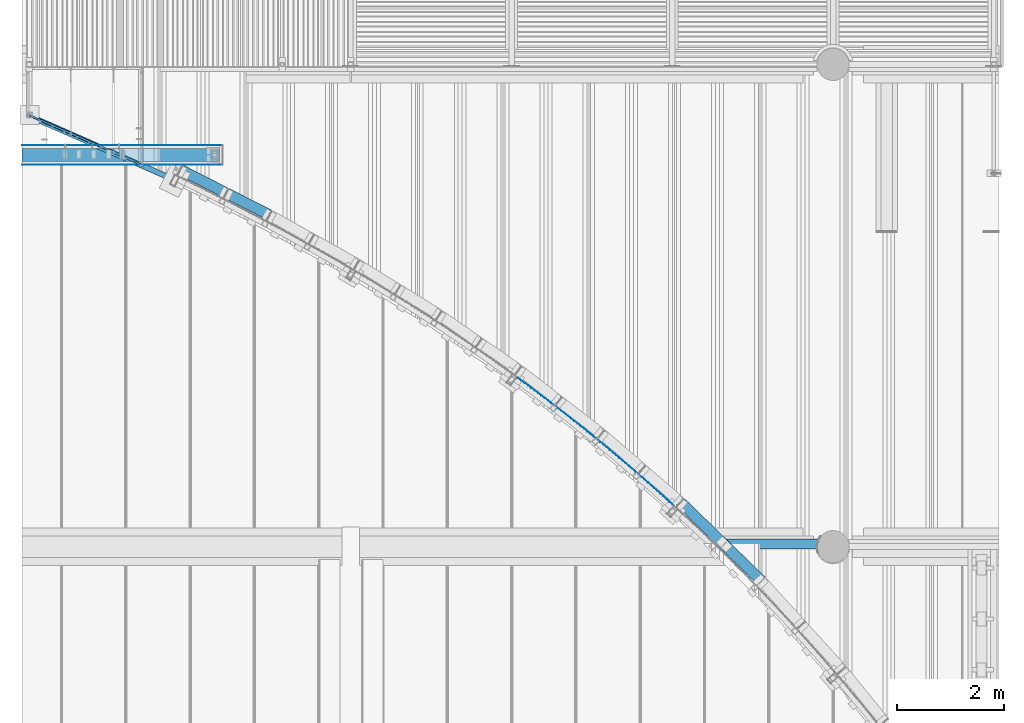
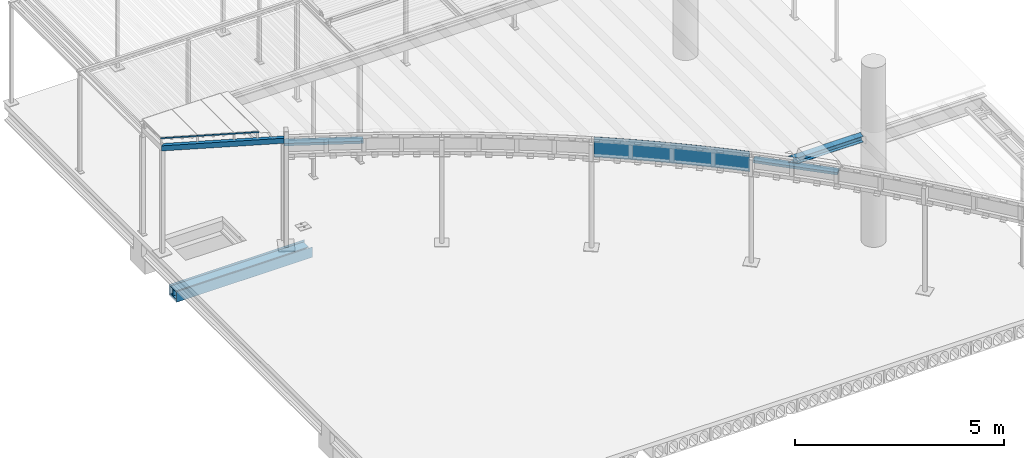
# One storey, part 15 of 98: 10 beams.
"""IFC2X3 building model written with IfcOpenShell, lengths in millimetres."""

import ifcopenshell
import ifcopenshell.guid

model = None  # the IFC model being written
_history = None  # IfcOwnerHistory: only IFC2X3 demands one
_inside = {}  # id of a spatial element -> (the spatial element, [elements in it])
_under = {}  # id of a project, library or spatial element -> (it, [spatial elements below it])
_declared = {}  # id of a project -> (the project, [libraries it declares])
_typed = {}  # id of a type object -> (the type object, [elements of that type])
_made_of = {}  # id of a material, layer set ... -> (it, [elements and type objects made of it])


def new_model(schema):
    """Start an empty IFC model of exactly this schema.

    Asked for "IFC4X3", IfcOpenShell would pick the latest addendum, in which some entities
    have other attributes; the version numbers below select the first issue.
    IFC2X3 requires an IfcOwnerHistory on every rooted entity: one is made here for all.
    """
    global model, _history
    if schema == "IFC4X3":
        model = ifcopenshell.file(schema_version=(4, 3, 0, 0))
    else:
        model = ifcopenshell.file(schema=schema)
    _inside.clear()
    _under.clear()
    _declared.clear()
    _typed.clear()
    _made_of.clear()
    _history = None
    if model.schema == "IFC2X3":
        org = make("IfcOrganization", Name="unknown")
        user = make(
            "IfcPersonAndOrganization",
            ThePerson=make("IfcPerson", FamilyName="unknown"),
            TheOrganization=org,
        )
        app = make(
            "IfcApplication",
            ApplicationDeveloper=org,
            Version="unknown",
            ApplicationFullName="unknown",
            ApplicationIdentifier="unknown",
        )
        _history = make(
            "IfcOwnerHistory",
            OwningUser=user,
            OwningApplication=app,
            ChangeAction="ADDED",
            CreationDate=0,
        )
    return model


def make(cls, **values):
    """One entity of the class cls with the attributes given. An attribute that is None is left unset."""
    return model.create_entity(
        cls, **{name: value for name, value in values.items() if value is not None}
    )


def entity(cls, *values):
    """Any entity or typed value of the class cls, its attributes in the order of the schema. None: left unset."""
    e = model.create_entity(cls)
    for i, value in enumerate(values):
        if value is not None:
            e[i] = value
    return e


def rooted(cls, **values):
    """An entity with a GlobalId (a new one), such as an element, a storey or a relation."""
    return make(cls, GlobalId=ifcopenshell.guid.new(), OwnerHistory=_history, **values)


def si_unit(unit_type, name, prefix=None):
    """IfcSIUnit, for example si_unit("LENGTHUNIT", "METRE", prefix="MILLI")."""
    return make("IfcSIUnit", UnitType=unit_type, Prefix=prefix, Name=name)


def converted_unit(unit_type, name, factor, base, dimensions=None, offset=None):
    """IfcConversionBasedUnit, such as the inch: factor (a typed value) times the base unit."""
    return make(
        "IfcConversionBasedUnit"
        if offset is None
        else "IfcConversionBasedUnitWithOffset",
        ConversionOffset=offset,
        Dimensions=None
        if dimensions is None
        else entity("IfcDimensionalExponents", *dimensions),
        UnitType=unit_type,
        Name=name,
        ConversionFactor=make(
            "IfcMeasureWithUnit", ValueComponent=factor, UnitComponent=base
        ),
    )


def derived_unit(unit_type, elements):
    """IfcDerivedUnit: a product of units, each with its exponent."""
    return make(
        "IfcDerivedUnit",
        Elements=[
            make("IfcDerivedUnitElement", Unit=unit, Exponent=power)
            for unit, power in elements
        ],
        UnitType=unit_type,
    )


def assignment(units):
    """IfcUnitAssignment: the units of a project."""
    return None if units is None else make("IfcUnitAssignment", Units=units)


def point(xyz):
    """IfcCartesianPoint."""
    return None if xyz is None else make("IfcCartesianPoint", Coordinates=xyz)


def direction(xyz):
    """IfcDirection."""
    return None if xyz is None else make("IfcDirection", DirectionRatios=xyz)


def frame(location, z_axis=None, x_axis=None):
    """IfcAxis2Placement3D, a coordinate frame: its origin and axes. An axis left out is left unset."""
    return make(
        "IfcAxis2Placement3D",
        Location=point(location),
        Axis=direction(z_axis),
        RefDirection=direction(x_axis),
    )


def origin_with_axes():
    """The frame at (0, 0, 0) with the z axis (0, 0, 1) and the x axis (1, 0, 0) written out."""
    return frame((0.0, 0.0, 0.0), z_axis=(0.0, 0.0, 1.0), x_axis=(1.0, 0.0, 0.0))


def place(relative_to, where):
    """IfcLocalPlacement: puts the frame where relative to a parent placement (None: the world)."""
    return make(
        "IfcLocalPlacement", PlacementRelTo=relative_to, RelativePlacement=where
    )


def context(
    kind, dimensions, precision=None, world=None, true_north=None, identifier=None
):
    """IfcGeometricRepresentationContext, for example the 3D "Model" context."""
    return make(
        "IfcGeometricRepresentationContext",
        ContextIdentifier=identifier,
        ContextType=kind,
        CoordinateSpaceDimension=dimensions,
        Precision=precision,
        WorldCoordinateSystem=world,
        TrueNorth=true_north,
    )


def subcontext(parent, identifier, kind, view, scale=None):
    """IfcGeometricRepresentationSubContext, for example "Body" below "Model"."""
    return make(
        "IfcGeometricRepresentationSubContext",
        ContextIdentifier=identifier,
        ContextType=kind,
        ParentContext=parent,
        TargetScale=scale,
        TargetView=view,
    )


def project(units=None, contexts=None):
    """IfcProject with its units and contexts."""
    return rooted(
        "IfcProject",
        Name="project",
        RepresentationContexts=contexts,
        UnitsInContext=assignment(units),
    )


def spatial(cls, under=None, at=None, **own):
    """A site, building, storey or space (cls), placed at a placement, below another one or the project."""
    s = rooted(cls, ObjectPlacement=at, **own)
    if under is not None:
        _under.setdefault(under.id(), (under, []))[1].append(s)
    return s


def faces_of(points, faces, orient=None, outer=None):
    """IfcFace entities. A face is a list of loops; a loop is a list of indices into points, from 0.

    orient and outer hold one flag for each loop. By default every Orientation is true, the
    first loop of a face is its IfcFaceOuterBound and the others are IfcFaceBound.
    """
    made = []
    for i, loops in enumerate(faces):
        bounds = []
        for j, loop in enumerate(loops):
            is_outer = j == 0 if outer is None else outer[i][j]
            bounds.append(
                make(
                    "IfcFaceOuterBound" if is_outer else "IfcFaceBound",
                    Bound=make("IfcPolyLoop", Polygon=[points[k] for k in loop]),
                    Orientation=True if orient is None else orient[i][j],
                )
            )
        made.append(make("IfcFace", Bounds=bounds))
    return made


def faceted_brep(points, faces, orient=None, outer=None, voids=None):
    """IfcFacetedBrep: a solid bounded by flat faces; with voids (closed shells), ...WithVoids."""
    shared = [point(p) for p in points]
    hull = make("IfcClosedShell", CfsFaces=faces_of(shared, faces, orient, outer))
    if voids is None:
        return make("IfcFacetedBrep", Outer=hull)
    return make(
        "IfcFacetedBrepWithVoids",
        Outer=hull,
        Voids=[
            make(cls, CfsFaces=faces_of(shared, fs, o, b)) for cls, fs, o, b in voids
        ],
    )


def shape(context_of_items, identifier, shape_type, items):
    """IfcShapeRepresentation: the items that make up one representation, for example the "Body"."""
    return make(
        "IfcShapeRepresentation",
        ContextOfItems=context_of_items,
        RepresentationIdentifier=identifier,
        RepresentationType=shape_type,
        Items=items,
    )


def material(Name=None, Category=None):
    """IfcMaterial."""
    return make("IfcMaterial", Name=Name, Category=Category)


def made_of(thing, what):
    """Note that an element or type object is made of a material, layer set ...; save() writes the relation."""
    if what is not None:
        _made_of.setdefault(what.id(), (what, []))[1].append(thing)
    return thing


def type_object(cls, material=None, **own):
    """A type object (cls), such as IfcWallType, which elements share."""
    return made_of(rooted(cls, **own), material)


def element(
    cls,
    number,
    at=None,
    inside=None,
    cuts=None,
    type_object=None,
    material=None,
    context=None,
    identifier="Body",
    shape_type=None,
    held_by="IfcProductDefinitionShape",
    body=None,
    shapes=None,
    **own,
):
    """One element of the class cls, such as IfcWall. Its Tag is "e" and its number.

    at: its placement. inside: the storey or other place that contains it. cuts: it is an
    opening in that element (IfcRelVoidsElement). A single representation is given by context,
    identifier, shape_type and body (its items); several are given by shapes. held_by: the class
    of the entity that holds the representations. save() writes the other relations.
    """
    e = rooted(cls, Tag="e%d" % number, ObjectPlacement=at, **own)
    if body is not None:
        shapes = [shape(context, identifier, shape_type, body)]
    if shapes is not None:
        e.Representation = make(held_by, Representations=shapes)
    if inside is not None:
        _inside.setdefault(inside.id(), (inside, []))[1].append(e)
    if cuts is not None:
        rooted(
            "IfcRelVoidsElement", RelatingBuildingElement=cuts, RelatedOpeningElement=e
        )
    if type_object is not None:
        _typed.setdefault(type_object.id(), (type_object, []))[1].append(e)
    return made_of(e, material)


def aggregate(whole, parts):
    """IfcRelAggregates: a whole, such as a stair, and the parts it consists of."""
    return rooted("IfcRelAggregates", RelatingObject=whole, RelatedObjects=parts)


def save(model, path):
    """Write the relations noted so far, then the file.

    IfcRelAggregates (storeys below a building ...), IfcRelContainedInSpatialStructure (elements
    in a storey), IfcRelDefinesByType, IfcRelAssociatesMaterial and IfcRelDeclares: one each for
    every whole, place, type object, material and project.
    """
    for whole, parts in _under.values():
        aggregate(whole, parts)
    for where, things in _inside.values():
        rooted(
            "IfcRelContainedInSpatialStructure",
            RelatedElements=things,
            RelatingStructure=where,
        )
    for kind, things in _typed.values():
        rooted("IfcRelDefinesByType", RelatedObjects=things, RelatingType=kind)
    for what, things in _made_of.values():
        rooted("IfcRelAssociatesMaterial", RelatedObjects=things, RelatingMaterial=what)
    for by, libraries in _declared.values():
        rooted("IfcRelDeclares", RelatingContext=by, RelatedDefinitions=libraries)
    model.write(path)


model = new_model("IFC2X3")

# Units and contexts
model_context = context("Model", 3, precision=0.01, world=frame((0.0, 4.29681676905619e-09, 0.0)), true_north=direction((4.01073788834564e-13, 1.0)))
plan_context = context("Plan", 3, precision=0.01, world=frame((0.0, 4.29681676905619e-09, 0.0)), true_north=direction((4.01073788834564e-13, 1.0)))
body_context = subcontext(model_context, "Body", "Model", "MODEL_VIEW")
ifc_project = project(units=[converted_unit("PLANEANGLEUNIT", "DEGREE", entity("IfcPositiveLengthMeasure", 0.0174532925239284), si_unit("PLANEANGLEUNIT", "RADIAN"), dimensions=[0, 0, 0, 0, 0, 0, 0]), si_unit("AREAUNIT", "SQUARE_METRE"), si_unit("LENGTHUNIT", "METRE", prefix="MILLI"), si_unit("MASSUNIT", "GRAM", prefix="KILO"), si_unit("POWERUNIT", "WATT"), si_unit("PRESSUREUNIT", "PASCAL"), si_unit("FORCEUNIT", "NEWTON", prefix="KILO"), si_unit("ELECTRICCURRENTUNIT", "AMPERE"), si_unit("THERMODYNAMICTEMPERATUREUNIT", "DEGREE_CELSIUS"), si_unit("TIMEUNIT", "SECOND"), si_unit("VOLUMEUNIT", "CUBIC_METRE"), derived_unit("LINEARVELOCITYUNIT", [(si_unit("LENGTHUNIT", "METRE"), 1), (si_unit("TIMEUNIT", "SECOND"), -1)]), derived_unit("VOLUMETRICFLOWRATEUNIT", [(si_unit("VOLUMEUNIT", "CUBIC_METRE"), 1), (si_unit("TIMEUNIT", "SECOND"), -1)]), derived_unit("THERMALTRANSMITTANCEUNIT", [(si_unit("POWERUNIT", "WATT"), 1), (si_unit("THERMODYNAMICTEMPERATUREUNIT", "KELVIN"), -1), (si_unit("AREAUNIT", "SQUARE_METRE"), -1)])], contexts=[model_context, plan_context])

# Site, building, storey
site_placement = place(None, frame((0.0, -4.29681676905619e-09, 0.0), z_axis=(0.0, 0.0, 1.0), x_axis=(1.0, 0.0, 0.0)))
site = spatial("IfcSite", under=ifc_project, at=site_placement, Name="Gardermoen", CompositionType="ELEMENT")
building_placement = place(site_placement, frame((0.0, 4.29681676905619e-09, 0.0), z_axis=(0.0, 0.0, 1.0), x_axis=(1.0, 0.0, 0.0)))
building = spatial("IfcBuilding", under=site, at=building_placement, Name="TS", CompositionType="ELEMENT")
storey_placement = place(building_placement, origin_with_axes())
storey = spatial("IfcBuildingStorey", under=building, at=storey_placement, Name="D", CompositionType="ELEMENT", Elevation=0.0)

# Beams
beam_type_1 = type_object("IfcBeamType", Name="PL362*1", PredefinedType="NOTDEFINED")
beam_1_placement = place(storey_placement, frame((512788.999766, 412809.999991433, 203094.5), z_axis=(0.0, 1.0, 0.0), x_axis=(1.0, 0.0, 0.0)))
element("IfcBeam", 1, at=beam_1_placement, inside=storey, type_object=beam_type_1, Name="STÅLBJELKE", ObjectType="PL362*1", context=body_context, shape_type="Brep", body=[
    faceted_brep([(1073.50023400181, 0.5, 181.0), (1073.50023400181, 0.5, -181.0), (4821.99999999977, 0.5, -181.0), (4821.99999999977, 0.5, 181.0), (1073.50023400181, -0.5, 181.0), (4821.99999999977, -0.5, 181.0), (1073.50023400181, -0.5, -181.0), (4821.99999999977, -0.5, -181.0)], [[[0, 1, 2, 3]], [[4, 0, 3, 5]], [[6, 4, 5, 7]], [[1, 6, 7, 2]], [[3, 2, 7, 5]], [[4, 6, 1, 0]]], orient=[[False], [False], [False], [False], [False], [False]]),
])
beam_type_2 = type_object("IfcBeamType", Name="PL305*1", PredefinedType="NOTDEFINED")
beam_2_placement = place(storey_placement, frame((517609.999766, 412990.499991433, 203247.5), z_axis=(0.0, 0.0, 1.0), x_axis=(-0.999999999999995, -9.99999902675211e-08, 0.0)))
element("IfcBeam", 2, at=beam_2_placement, inside=storey, type_object=beam_type_2, Name="STÅLBJELKE", ObjectType="PL305*1", context=body_context, shape_type="Brep", body=[
    faceted_brep([(3747.49976604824, 0.500000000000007, -152.5), (3747.49976604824, 0.500000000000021, 152.5), (0.0, 0.5, 152.5), (0.0, 0.5, -152.5), (3747.49978104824, -0.5, 152.5), (0.0, -0.5, 152.5), (3747.49976594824, -0.500000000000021, -152.5), (0.0, -0.5, -152.5), (3747.49975094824, -0.5, -152.5), (3747.49975094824, -0.5, 152.5), (3747.49975094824, 0.5, 152.5), (3747.49975094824, 0.5, -152.5)], [[[0, 1, 2, 3]], [[1, 4, 5, 2]], [[4, 6, 7, 5]], [[6, 0, 3, 7]], [[3, 2, 5, 7]], [[8, 9, 10, 11]]], orient=[[False], [False], [False], [False], [False], [False]]),
])
beam_3_placement = place(storey_placement, frame((512789.999766, 412629.499991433, 203247.5), z_axis=(0.0, 0.0, 1.0), x_axis=(1.0, 0.0, 0.0)))
element("IfcBeam", 3, at=beam_3_placement, inside=storey, type_object=beam_type_2, Name="STÅLBJELKE", ObjectType="PL305*1", context=body_context, shape_type="Brep", body=[
    faceted_brep([(1072.50023400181, 0.5, 152.5), (1072.50023400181, 0.5, -152.5), (4819.99999999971, 0.5, -152.5), (4819.99999999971, 0.5, 152.5), (1072.50023400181, -0.5, 152.5), (4819.99999999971, -0.5, 152.5), (1072.50023400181, -0.5, -152.5), (4819.99999999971, -0.5, -152.5)], [[[0, 1, 2, 3]], [[4, 0, 3, 5]], [[6, 4, 5, 7]], [[1, 6, 7, 2]], [[3, 2, 7, 5]], [[4, 6, 1, 0]]], orient=[[False], [False], [False], [False], [False], [False]]),
])
ifc_material_1 = material(Name="TIMBER/GL36c")
beam_type_3 = type_object("IfcBeamType", Name="PL73*198", PredefinedType="NOTDEFINED")
beam_4_placement = place(storey_placement, frame((527660.664402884, 404864.948304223, 206786.5), z_axis=(-0.697009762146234, -0.717061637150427, 0.0), x_axis=(-0.717061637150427, 0.697009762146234, 0.0)))
element("IfcBeam", 4, at=beam_4_placement, inside=storey, type_object=beam_type_3, material=ifc_material_1, Name="TREBJELKE", ObjectType="PL73*198", context=body_context, shape_type="Brep", body=[
    faceted_brep([(2.3283064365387e-10, 36.5, -99.0000000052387), (-2.3283064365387e-10, 36.5, 99.0000000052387), (2090.11325484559, 36.5, 99.000000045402), (2090.11325484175, 36.5, -98.9999999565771), (-2.3283064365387e-10, -36.5, 99.0000000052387), (2090.11325484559, -36.5, 99.000000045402), (2.3283064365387e-10, -36.5, -99.0000000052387), (2090.11325484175, -36.5, -98.9999999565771)], [[[0, 1, 2, 3]], [[1, 4, 5, 2]], [[4, 6, 7, 5]], [[6, 0, 3, 7]], [[5, 7, 3, 2]], [[6, 4, 1, 0]]]),
])
beam_5_placement = place(storey_placement, frame((518475.913339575, 411691.344524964, 206786.499979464), z_axis=(-0.453745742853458, -0.891131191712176, -2.17052192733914e-20), x_axis=(-0.891131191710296, 0.453745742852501, -2.05399999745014e-06)))
element("IfcBeam", 5, at=beam_5_placement, inside=storey, type_object=beam_type_3, material=ifc_material_1, Name="TREBJELKE", ObjectType="PL73*198", context=body_context, shape_type="Brep", body=[
    faceted_brep([(2.3283064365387e-10, 36.5, -99.0000000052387), (-2.3283064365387e-10, 36.5, 99.0000000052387), (1904.62163173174, 36.5000000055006, 98.9999999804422), (1904.62163172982, 36.5000000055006, -99.0000000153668), (-2.3283064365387e-10, -36.5, 99.0000000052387), (1904.62163173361, -36.4999999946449, 98.9999999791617), (2.3283064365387e-10, -36.5, -99.0000000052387), (1904.62163173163, -36.4999999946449, -99.0000000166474)], [[[0, 1, 2, 3]], [[1, 4, 5, 2]], [[4, 6, 7, 5]], [[6, 0, 3, 7]], [[5, 7, 3, 2]], [[6, 4, 1, 0]]]),
])
ifc_material_2 = material(Name="STEEL/S355")
beam_type_4 = type_object("IfcBeamType", Name="4*595", PredefinedType="NOTDEFINED")
beam_6_placement = place(storey_placement, frame((523057.590338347, 408692.363890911, 206802.5), z_axis=(0.633458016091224, 0.773777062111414, 0.0), x_axis=(0.773777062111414, -0.633458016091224, 0.0)))
element("IfcBeam", 6, at=beam_6_placement, inside=storey, type_object=beam_type_4, material=ifc_material_2, Name="STÅLBJELKE", ObjectType="4*595", context=body_context, shape_type="Brep", body=[
    faceted_brep([(77.582693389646, 297.5, 6.25681339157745), (77.7972171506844, 297.5, 2.26257008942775), (50.3166745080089, 297.5, 0.755829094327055), (50.0949937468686, 297.5, 4.74967998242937), (77.7972171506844, -297.5, 2.26257008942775), (50.3166745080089, -297.5, 0.755829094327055), (77.582693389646, -297.5, 6.25681339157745), (50.0949937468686, -297.5, 4.74967998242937), (155.286443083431, -297.5, 10.3430383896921), (155.286443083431, 297.5, 10.3430383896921), (155.492036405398, 297.5, 6.34832546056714), (155.492036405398, -297.5, 6.34832546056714), (233.195795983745, -297.5, 10.2603688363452), (232.999134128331, -297.5, 14.2555314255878), (232.999134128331, 297.5, 14.2555314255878), (233.195795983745, 297.5, 10.2603688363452), (310.908107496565, 297.5, 13.9986806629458), (310.908107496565, -297.5, 13.9986806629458), (310.720378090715, -297.5, 17.9942729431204), (310.720378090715, 297.5, 17.9942729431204), (388.449786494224, 297.5, 21.5592442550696), (388.628582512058, 297.5, 17.5632422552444), (388.628582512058, -297.5, 17.5632422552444), (388.449786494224, -297.5, 21.5592442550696), (466.186970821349, -297.5, 24.9504275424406), (466.186970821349, 297.5, 24.9504275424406), (466.356832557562, 297.5, 20.9540357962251), (466.356832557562, -297.5, 20.9540357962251), (544.092469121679, -297.5, 24.1710443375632), (543.931542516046, -297.5, 28.1678058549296), (543.931542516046, 297.5, 28.1678058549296), (544.092469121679, 297.5, 24.1710443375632), (621.835103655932, 297.5, 27.2142517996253), (621.835103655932, -297.5, 27.2142517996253), (621.683112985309, -297.5, 31.2113631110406), (621.683112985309, 297.5, 31.2113631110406), (699.441293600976, 297.5, 34.0810840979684), (699.584347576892, 297.5, 30.0836429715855), (699.584347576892, -297.5, 30.0836429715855), (699.441293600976, -297.5, 34.0810840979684), (777.205695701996, -297.5, 36.776954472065), (777.205695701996, 297.5, 36.776954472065), (777.339812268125, 297.5, 32.779203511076), (777.339812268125, -297.5, 32.779203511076), (855.101109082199, -297.5, 35.3009199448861), (854.975930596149, -297.5, 39.2989607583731), (854.975930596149, 297.5, 39.2989607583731), (855.101109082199, 297.5, 35.3009199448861), (932.867849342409, 297.5, 37.6487796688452), (932.867849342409, -297.5, 37.6487796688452), (932.751609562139, -297.5, 41.647090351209), (932.751609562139, 297.5, 41.647090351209), (1010.53234385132, 297.5, 43.8213315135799), (1010.63964434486, 297.5, 39.8227709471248), (1010.63964434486, -297.5, 39.8227709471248), (1010.53234385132, -297.5, 43.8213315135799), (1088.31774468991, -297.5, 45.8216733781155), (1088.31774468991, 297.5, 45.8216733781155), (1088.41610536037, 297.5, 41.8228829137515), (1088.41610536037, -297.5, 41.8228829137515), (1166.19684363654, -297.5, 43.6491055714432), (1166.10742328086, -297.5, 47.6481059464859), (1166.10742328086, 297.5, 47.6481059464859), (1166.19684363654, 297.5, 43.6491055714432), (1243.98147039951, 297.5, 45.3014297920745), (1243.98147039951, -297.5, 45.3014297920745), (1243.90099080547, -297.5, 49.3006200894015), (1243.90099080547, 297.5, 49.3006200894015), (1321.69805842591, 297.5, 50.7792075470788), (1321.76959685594, 297.5, 46.7798473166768), (1321.76959685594, -297.5, 46.7798473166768), (1321.69805842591, -297.5, 50.7792075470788), (1399.49823728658, -297.5, 52.0838609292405), (1399.49823728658, 297.5, 52.0838609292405), (1399.56083419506, 297.5, 48.0843507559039), (1399.56083419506, -297.5, 48.0843507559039), (1477.35479359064, -297.5, 49.2149335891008), (1477.30113851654, -297.5, 53.2145737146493), (1477.30113851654, 297.5, 53.2145737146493), (1477.35479359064, 297.5, 49.2149335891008), (1555.15108620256, 297.5, 50.1715901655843), (1555.15108620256, -297.5, 50.1715901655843), (1555.10637323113, -297.5, 54.1713402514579), (1555.10637323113, 297.5, 54.1713402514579), (1632.91355253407, 297.5, 54.9541557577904), (1632.94932317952, 297.5, 50.9543157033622), (1632.94932317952, -297.5, 50.9543157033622), (1632.91355253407, -297.5, 54.9541557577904), (1710.72228751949, -297.5, 55.5630163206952), (1710.72228751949, 297.5, 55.5630163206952), (1710.74911565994, 297.5, 51.5631062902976), (1710.74911565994, -297.5, 51.5631062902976), (1788.5500747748, -297.5, 51.9979588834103), (1788.53218927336, -297.5, 55.9979188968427), (1788.53218927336, 297.5, 55.9979188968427), (1788.5500747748, 297.5, 51.9979588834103), (1866.35181164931, 297.5, 52.2588713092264), (1866.35181164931, -297.5, 52.2588713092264), (1866.34286887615, -297.5, 56.2588613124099), (1866.34286887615, 297.5, 56.2588613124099), (1944.15393740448, 297.5, 56.3458422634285), (1944.15393740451, 297.5, 52.3458422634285), (1944.15393740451, -297.5, 52.3458422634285), (1944.15393740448, -297.5, 56.3458422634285), (2021.96500593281, -297.5, 56.2588613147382), (2021.96500593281, 297.5, 56.2588613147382), (2021.95606315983, 297.5, 52.2588713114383), (2021.95606315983, -297.5, 52.2588713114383), (2099.75780003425, -297.5, 51.9979588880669), (2099.77568553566, -297.5, 55.9979189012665), (2099.77568553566, 297.5, 55.9979189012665), (2099.75780003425, 297.5, 51.9979588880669), (2177.55875914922, 297.5, 51.5631062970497), (2177.55875914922, -297.5, 51.5631062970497), (2177.58558728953, -297.5, 55.5630163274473), (2177.58558728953, 297.5, 55.5630163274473), (2255.39432227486, 297.5, 54.9541557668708), (2255.35855162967, 297.5, 50.9543157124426), (2255.35855162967, -297.5, 50.9543157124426), (2255.39432227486, -297.5, 54.9541557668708), (2333.20150157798, -297.5, 54.1713402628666), (2333.20150157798, 297.5, 54.1713402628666), (2333.15678860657, 297.5, 50.1715901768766), (2333.15678860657, -297.5, 50.1715901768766), (2410.95308121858, -297.5, 49.2149336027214), (2411.00673629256, -297.5, 53.2145737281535), (2411.00673629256, 297.5, 53.2145737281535), (2410.95308121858, 297.5, 49.2149336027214), (2488.74704061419, 297.5, 48.0843507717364), (2488.74704061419, -297.5, 48.0843507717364), (2488.8096375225, -297.5, 52.0838609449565), (2488.8096375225, 297.5, 52.0838609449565), (2566.60981638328, 297.5, 50.7792075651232), (2566.53827795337, 297.5, 46.7798473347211), (2566.53827795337, -297.5, 46.7798473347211), (2566.60981638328, -297.5, 50.7792075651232), (2644.40688400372, -297.5, 49.3006201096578), (2644.40688400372, 297.5, 49.3006201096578), (2644.32640440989, 297.5, 45.3014298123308), (2644.32640440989, -297.5, 45.3014298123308), (2722.11103117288, -297.5, 43.6491055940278), (2722.20045152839, -297.5, 47.648105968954), (2722.20045152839, 297.5, 47.648105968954), (2722.11103117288, 297.5, 43.6491055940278), (2799.89176944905, 297.5, 41.8228829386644), (2799.89176944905, -297.5, 41.8228829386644), (2799.99013011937, -297.5, 45.8216734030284), (2799.99013011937, 297.5, 45.8216734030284), (2877.77553095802, 297.5, 43.8213315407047), (2877.66823046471, 297.5, 39.8227709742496), (2877.66823046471, -297.5, 39.8227709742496), (2877.77553095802, -297.5, 43.8213315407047), (2955.55626524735, -297.5, 41.6470903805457), (2955.55626524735, 297.5, 41.6470903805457), (2955.44002546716, 297.5, 37.6487796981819), (2955.44002546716, -297.5, 37.6487796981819), (3033.20676572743, -297.5, 35.3009199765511), (3033.33194421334, -297.5, 39.2989607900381), (3033.33194421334, 297.5, 39.2989607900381), (3033.20676572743, 297.5, 35.3009199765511), (3110.96806254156, 297.5, 32.7792035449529), (3110.96806254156, -297.5, 32.7792035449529), (3111.10217910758, -297.5, 36.7769545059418), (3111.10217910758, 297.5, 36.7769545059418), (3188.86658120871, 297.5, 34.0810841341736), (3188.72352723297, 297.5, 30.0836430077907), (3188.72352723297, -297.5, 30.0836430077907), (3188.86658120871, -297.5, 34.0810841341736), (3266.62476182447, -297.5, 31.211363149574), (3266.62476182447, 297.5, 31.211363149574), (3266.47277115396, 297.5, 27.2142518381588), (3266.47277115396, -297.5, 27.2142518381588), (3344.21540568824, -297.5, 24.1710443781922), (3344.37633229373, -297.5, 28.167805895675), (3344.37633229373, 297.5, 28.167805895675), (3344.21540568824, 297.5, 24.1710443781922), (3421.95104225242, 297.5, 20.9540358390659), (3421.95104225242, -297.5, 20.9540358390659), (3422.12090398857, -297.5, 24.9504275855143), (3422.12090398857, 297.5, 24.9504275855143), (3499.85808831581, 297.5, 21.5592443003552), (3499.6792922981, 297.5, 17.5632423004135), (3499.6792922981, -297.5, 17.5632423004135), (3499.85808831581, -297.5, 21.5592443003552), (3577.58749671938, -297.5, 17.9942729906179), (3577.58749671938, 297.5, 17.9942729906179), (3577.39976731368, 297.5, 13.9986807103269), (3577.39976731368, -297.5, 13.9986807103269), (3655.11207882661, -297.5, 10.2603688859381), (3655.30874068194, -297.5, 14.2555314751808), (3655.30874068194, 297.5, 14.2555314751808), (3655.11207882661, 297.5, 10.2603688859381), (3732.81583840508, 297.5, 6.34832551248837), (3732.81583840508, -297.5, 6.34832551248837), (3733.02143172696, -297.5, 10.3430384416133), (3733.02143172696, 297.5, 10.3430384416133), (3810.7251814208, 297.5, 6.25681344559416), (3810.51065765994, 297.5, 2.26257014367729), (3810.51065765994, -297.5, 2.26257014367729), (3810.7251814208, -297.5, 6.25681344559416), (3838.32806954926, -297.5, 4.74336432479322), (3838.32806954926, 297.5, 4.74336432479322), (3838.10852771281, 297.5, 0.749396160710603), (3838.10852771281, -297.5, 0.749396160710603)], [[[0, 1, 2, 3]], [[1, 4, 5, 2]], [[4, 6, 7, 5]], [[2, 5, 7, 3]], [[6, 0, 3, 7]], [[0, 6, 8, 9]], [[1, 0, 9, 10]], [[4, 1, 10, 11]], [[6, 4, 11, 8]], [[8, 11, 12, 13]], [[9, 8, 13, 14]], [[10, 9, 14, 15]], [[11, 10, 15, 12]], [[12, 15, 16, 17]], [[13, 12, 17, 18]], [[14, 13, 18, 19]], [[15, 14, 19, 16]], [[16, 19, 20, 21]], [[17, 16, 21, 22]], [[18, 17, 22, 23]], [[19, 18, 23, 20]], [[20, 23, 24, 25]], [[21, 20, 25, 26]], [[22, 21, 26, 27]], [[23, 22, 27, 24]], [[24, 27, 28, 29]], [[25, 24, 29, 30]], [[26, 25, 30, 31]], [[27, 26, 31, 28]], [[28, 31, 32, 33]], [[29, 28, 33, 34]], [[30, 29, 34, 35]], [[31, 30, 35, 32]], [[32, 35, 36, 37]], [[33, 32, 37, 38]], [[34, 33, 38, 39]], [[35, 34, 39, 36]], [[36, 39, 40, 41]], [[37, 36, 41, 42]], [[38, 37, 42, 43]], [[39, 38, 43, 40]], [[40, 43, 44, 45]], [[41, 40, 45, 46]], [[42, 41, 46, 47]], [[43, 42, 47, 44]], [[44, 47, 48, 49]], [[45, 44, 49, 50]], [[46, 45, 50, 51]], [[47, 46, 51, 48]], [[48, 51, 52, 53]], [[49, 48, 53, 54]], [[50, 49, 54, 55]], [[51, 50, 55, 52]], [[52, 55, 56, 57]], [[53, 52, 57, 58]], [[54, 53, 58, 59]], [[55, 54, 59, 56]], [[56, 59, 60, 61]], [[57, 56, 61, 62]], [[58, 57, 62, 63]], [[59, 58, 63, 60]], [[60, 63, 64, 65]], [[61, 60, 65, 66]], [[62, 61, 66, 67]], [[63, 62, 67, 64]], [[64, 67, 68, 69]], [[65, 64, 69, 70]], [[66, 65, 70, 71]], [[67, 66, 71, 68]], [[68, 71, 72, 73]], [[69, 68, 73, 74]], [[70, 69, 74, 75]], [[71, 70, 75, 72]], [[72, 75, 76, 77]], [[73, 72, 77, 78]], [[74, 73, 78, 79]], [[75, 74, 79, 76]], [[76, 79, 80, 81]], [[77, 76, 81, 82]], [[78, 77, 82, 83]], [[79, 78, 83, 80]], [[80, 83, 84, 85]], [[81, 80, 85, 86]], [[82, 81, 86, 87]], [[83, 82, 87, 84]], [[84, 87, 88, 89]], [[85, 84, 89, 90]], [[86, 85, 90, 91]], [[87, 86, 91, 88]], [[88, 91, 92, 93]], [[89, 88, 93, 94]], [[90, 89, 94, 95]], [[91, 90, 95, 92]], [[92, 95, 96, 97]], [[93, 92, 97, 98]], [[94, 93, 98, 99]], [[95, 94, 99, 96]], [[96, 99, 100, 101]], [[97, 96, 101, 102]], [[98, 97, 102, 103]], [[99, 98, 103, 100]], [[100, 103, 104, 105]], [[101, 100, 105, 106]], [[102, 101, 106, 107]], [[103, 102, 107, 104]], [[104, 107, 108, 109]], [[105, 104, 109, 110]], [[106, 105, 110, 111]], [[107, 106, 111, 108]], [[108, 111, 112, 113]], [[109, 108, 113, 114]], [[110, 109, 114, 115]], [[111, 110, 115, 112]], [[112, 115, 116, 117]], [[113, 112, 117, 118]], [[114, 113, 118, 119]], [[115, 114, 119, 116]], [[116, 119, 120, 121]], [[117, 116, 121, 122]], [[118, 117, 122, 123]], [[119, 118, 123, 120]], [[120, 123, 124, 125]], [[121, 120, 125, 126]], [[122, 121, 126, 127]], [[123, 122, 127, 124]], [[124, 127, 128, 129]], [[125, 124, 129, 130]], [[126, 125, 130, 131]], [[127, 126, 131, 128]], [[128, 131, 132, 133]], [[129, 128, 133, 134]], [[130, 129, 134, 135]], [[131, 130, 135, 132]], [[132, 135, 136, 137]], [[133, 132, 137, 138]], [[134, 133, 138, 139]], [[135, 134, 139, 136]], [[136, 139, 140, 141]], [[137, 136, 141, 142]], [[138, 137, 142, 143]], [[139, 138, 143, 140]], [[140, 143, 144, 145]], [[141, 140, 145, 146]], [[142, 141, 146, 147]], [[143, 142, 147, 144]], [[144, 147, 148, 149]], [[145, 144, 149, 150]], [[146, 145, 150, 151]], [[147, 146, 151, 148]], [[148, 151, 152, 153]], [[149, 148, 153, 154]], [[150, 149, 154, 155]], [[151, 150, 155, 152]], [[152, 155, 156, 157]], [[153, 152, 157, 158]], [[154, 153, 158, 159]], [[155, 154, 159, 156]], [[156, 159, 160, 161]], [[157, 156, 161, 162]], [[158, 157, 162, 163]], [[159, 158, 163, 160]], [[160, 163, 164, 165]], [[161, 160, 165, 166]], [[162, 161, 166, 167]], [[163, 162, 167, 164]], [[164, 167, 168, 169]], [[165, 164, 169, 170]], [[166, 165, 170, 171]], [[167, 166, 171, 168]], [[168, 171, 172, 173]], [[169, 168, 173, 174]], [[170, 169, 174, 175]], [[171, 170, 175, 172]], [[172, 175, 176, 177]], [[173, 172, 177, 178]], [[174, 173, 178, 179]], [[175, 174, 179, 176]], [[176, 179, 180, 181]], [[177, 176, 181, 182]], [[178, 177, 182, 183]], [[179, 178, 183, 180]], [[180, 183, 184, 185]], [[181, 180, 185, 186]], [[182, 181, 186, 187]], [[183, 182, 187, 184]], [[184, 187, 188, 189]], [[185, 184, 189, 190]], [[186, 185, 190, 191]], [[187, 186, 191, 188]], [[188, 191, 192, 193]], [[189, 188, 193, 194]], [[190, 189, 194, 195]], [[191, 190, 195, 192]], [[192, 195, 196, 197]], [[193, 192, 197, 198]], [[194, 193, 198, 199]], [[195, 194, 199, 196]], [[196, 199, 200, 201]], [[197, 196, 201, 202]], [[198, 197, 202, 203]], [[199, 198, 203, 200]], [[202, 201, 200, 203]]]),
])
beam_type_5 = type_object("IfcBeamType", Name="RHS150*100*6", PredefinedType="NOTDEFINED")
beam_7_placement = place(storey_placement, frame((513974.407064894, 413547.678495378, 207025.0), z_axis=(0.0, 0.0, 1.0), x_axis=(0.915371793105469, -0.402609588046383, 0.0)))
element("IfcBeam", 7, at=beam_7_placement, inside=storey, type_object=beam_type_5, material=ifc_material_2, Name="STÅLBJELKE", ObjectType="RHS150*100*6", context=body_context, shape_type="Brep", body=[
    faceted_brep([(56.67265330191, 43.9999999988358, -69.0), (-0.757952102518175, -43.9999999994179, -69.0), (2946.91186390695, -44.0000000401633, -69.0), (2950.27343209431, 43.9999999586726, -69.0), (-0.757952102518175, -43.9999999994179, 69.0), (2946.91186390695, -44.0000000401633, 69.0), (56.67265330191, 43.9999999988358, 69.0), (2950.27343209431, 43.9999999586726, 69.0), (60.5883763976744, 49.9999999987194, -75.0), (60.5883763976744, 49.9999999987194, 75.0), (2950.50262992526, 49.9999999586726, 75.0), (2950.50262992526, 49.9999999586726, -75.0), (-4.67367519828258, -49.9999999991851, 75.0), (2946.68266607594, -50.0000000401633, 75.0), (-4.67367519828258, -49.9999999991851, -75.0), (2946.68266607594, -50.0000000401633, -75.0)], [[[0, 1, 2, 3]], [[1, 4, 5, 2]], [[4, 6, 7, 5]], [[6, 0, 3, 7]], [[8, 9, 10, 11]], [[9, 12, 13, 10]], [[12, 14, 15, 13]], [[14, 8, 11, 15]], [[13, 15, 11, 10], [5, 7, 3, 2]], [[14, 12, 9, 8], [6, 4, 1, 0]]]),
])
beam_type_6 = type_object("IfcBeamType", Name="L40*5", PredefinedType="NOTDEFINED")
beam_8_placement = place(storey_placement, frame((513957.918329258, 413565.3566674, 207295.0), z_axis=(0.401165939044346, 0.916005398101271, 0.0), x_axis=(0.916005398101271, -0.401165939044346, 0.0)))
element("IfcBeam", 8, at=beam_8_placement, inside=storey, type_object=beam_type_6, material=ifc_material_2, Name="STÅLBJELKE", ObjectType="L40*5", context=body_context, shape_type="Brep", body=[
    faceted_brep([(0.0146548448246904, 20.0, -19.9999999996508), (26.1673211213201, 20.0, 19.9999999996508), (2307.90865581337, 20.0, 19.9999999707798), (2369.09458080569, 20.0, -20.0000000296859), (26.1673211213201, 15.0, 19.9999999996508), (2307.90865581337, 15.0, 19.9999999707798), (3.28373812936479, 15.0, -14.9999999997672), (2361.44634018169, 15.0, -15.0000000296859), (3.28373812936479, -20.0, -14.9999999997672), (2361.44634018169, -20.0, -15.0000000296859), (0.0146548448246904, -20.0, -19.9999999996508), (2369.09458080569, -20.0, -20.0000000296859)], [[[0, 1, 2, 3]], [[1, 4, 5, 2]], [[4, 6, 7, 5]], [[6, 8, 9, 7]], [[8, 10, 11, 9]], [[10, 0, 3, 11]], [[5, 7, 9, 11, 3, 2]], [[10, 8, 6, 4, 1, 0]]]),
])
beam_type_7 = type_object("IfcBeamType", Name="HEA240", PredefinedType="NOTDEFINED")
beam_9_placement = place(storey_placement, frame((512849.999766, 412809.999991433, 203270.0), z_axis=(0.0, 0.0, 1.0), x_axis=(1.0, 0.0, 0.0)))
element("IfcBeam", 9, at=beam_9_placement, inside=storey, type_object=beam_type_7, Name="STÅLBJELKE", ObjectType="HEA240", context=body_context, shape_type="Brep", body=[
    faceted_brep([(1012.50023400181, 120.0, -103.0), (1012.50023400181, 120.0, -114.999999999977), (4700.0, 120.0, -115.0), (4700.0, 120.0, -103.0), (1012.50023400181, 3.75, -102.999999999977), (4700.0, 3.75, -103.0), (1012.50023400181, 3.75, 103.000000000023), (4700.0, 3.75, 103.0), (1012.50023400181, 120.0, 103.0), (4700.0, 120.0, 103.0), (1012.50023400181, 120.0, 115.000000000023), (4700.0, 120.0, 115.0), (1012.50023400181, -120.0, 115.000000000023), (4700.0, -120.0, 115.0), (1012.50023400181, -120.0, 103.0), (4700.0, -120.0, 103.0), (1012.50023400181, -3.75, 103.000000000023), (4700.0, -3.75, 103.0), (1012.50023400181, -3.75, -102.999999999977), (4700.0, -3.75, -103.0), (1012.50023400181, -120.0, -103.0), (4700.0, -120.0, -103.0), (1012.50023400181, -120.0, -114.999999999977), (4700.0, -120.0, -115.0)], [[[0, 1, 2, 3]], [[4, 0, 3, 5]], [[6, 4, 5, 7]], [[8, 6, 7, 9]], [[10, 8, 9, 11]], [[12, 10, 11, 13]], [[14, 12, 13, 15]], [[16, 14, 15, 17]], [[18, 16, 17, 19]], [[20, 18, 19, 21]], [[22, 20, 21, 23]], [[1, 22, 23, 2]], [[3, 2, 23, 21, 19, 17, 15, 13, 11, 9, 7, 5]], [[4, 6, 8, 10, 12, 14, 16, 18, 20, 22, 1, 0]]], orient=[[False], [False], [False], [False], [False], [False], [False], [False], [False], [False], [False], [False], [False], [False]]),
])
beam_type_8 = type_object("IfcBeamType", Name="HE180A", PredefinedType="NOTDEFINED")
beam_10_placement = place(storey_placement, frame((526790.004502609, 405550.00022347, 207014.501811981), z_axis=(0.0, 0.0, 1.0), x_axis=(1.0, 0.0, 0.0)))
element("IfcBeam", 10, at=beam_10_placement, inside=storey, type_object=beam_type_8, material=ifc_material_2, Name="STÅLBJELKE", ObjectType="HE180A", context=body_context, shape_type="Brep", body=[
    faceted_brep([(1902.8563631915, -89.9999999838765, 85.5), (1902.8563631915, -89.9999999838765, 76.0), (1899.99550299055, -50.0000106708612, 76.0), (1899.99550299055, -50.0000106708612, 85.5), (1903.15085106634, -5.88241045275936, 76.0), (1903.15085106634, -5.88241045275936, 85.5), (1902.8563631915, -89.9999999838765, -76.0), (1902.8563631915, -89.9999999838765, -85.5), (1899.99550299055, -50.0000106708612, -85.5), (1899.99550299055, -50.0000106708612, -76.0), (1903.15085106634, -5.88241045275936, -85.5), (1903.15085106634, -5.88241045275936, -76.0), (1934.13689097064, 90.0000000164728, -76.0), (1928.00957000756, 78.7786464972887, -76.0), (1928.00957000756, 78.7786464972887, -85.5), (1934.13689097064, 90.0000000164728, -85.5), (1912.55267138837, 37.3370833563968, -76.0), (1912.55267138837, 37.3370833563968, -85.5), (1903.77788074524, -2.99999998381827, 76.0), (1903.77788074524, -2.99999998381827, -76.0), (1905.08310014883, 3.00000001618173, -76.0), (1905.08310014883, 3.00000001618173, 76.0), (1912.55267138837, 37.3370833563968, 76.0), (1912.55267138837, 37.3370833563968, 85.5), (1928.00957000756, 78.7786464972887, 76.0), (1928.00957000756, 78.7786464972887, 85.5), (1934.13689097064, 90.0000000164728, 85.5), (1934.13689097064, 90.0000000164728, 76.0), (102.55179195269, -89.9999999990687, -85.5), (102.55179195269, -89.9999999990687, -76.0), (12.7798906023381, -2.99999999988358, -76.0), (12.7798906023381, -2.99999999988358, 76.0), (102.55179195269, -89.9999999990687, 76.0), (102.55179195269, -89.9999999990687, 85.5), (-83.1831763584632, 89.9999999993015, 85.5), (-83.1831763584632, 89.9999999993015, 76.0), (6.58872499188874, 3.00000000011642, 76.0), (6.58872499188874, 3.00000000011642, -76.0), (-83.1831763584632, 89.9999999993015, -76.0), (-83.1831763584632, 89.9999999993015, -85.5)], [[[0, 1, 2, 3]], [[3, 2, 4, 5]], [[6, 7, 8, 9]], [[9, 8, 10, 11]], [[12, 13, 14, 15]], [[16, 17, 14, 13]], [[5, 4, 18, 19, 11, 10, 17, 16, 20, 21, 22, 23]], [[23, 22, 24, 25]], [[26, 25, 24, 27]], [[28, 29, 30, 31, 32, 33, 34, 35, 36, 37, 38, 39]], [[35, 34, 26, 27]], [[22, 21, 36, 35, 27, 24]], [[37, 36, 21, 20]], [[38, 37, 20, 16, 13, 12]], [[39, 38, 12, 15]], [[17, 10, 8, 7, 28, 39, 15, 14]], [[29, 28, 7, 6]], [[30, 29, 6, 9, 11, 19]], [[31, 30, 19, 18]], [[2, 1, 32, 31, 18, 4]], [[33, 32, 1, 0]], [[34, 33, 0, 3, 5, 23, 25, 26]]]),
])

save(model, "model.ifc")
